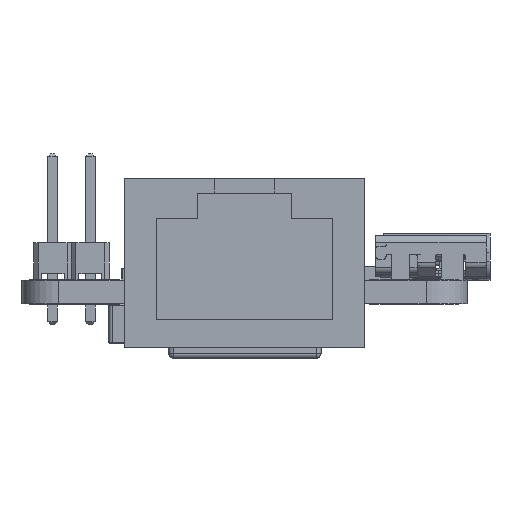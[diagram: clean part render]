
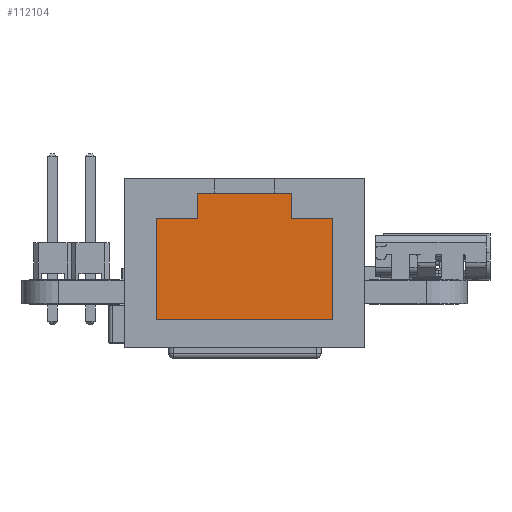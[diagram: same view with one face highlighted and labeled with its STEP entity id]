
A CAD part, left-side view. The second image highlights one B-rep face of the part: STEP entity #112104.
In plain terms, the highlighted planar face has unit normal (-1, 0, 0).
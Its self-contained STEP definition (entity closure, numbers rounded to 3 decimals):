
#28771=DIRECTION('',(0.,1.,0.));
#28772=VECTOR('',#28771,6.3);
#28773=CARTESIAN_POINT('',(1.58,11.88,5.85));
#28774=LINE('',#28773,#28772);
#28783=DIRECTION('',(0.,0.,1.));
#28784=VECTOR('',#28783,1.69);
#28785=CARTESIAN_POINT('',(1.58,11.88,4.16));
#28786=LINE('',#28785,#28784);
#28791=DIRECTION('',(0.,1.,0.));
#28792=VECTOR('',#28791,2.805);
#28793=CARTESIAN_POINT('',(1.58,9.075,4.16));
#28794=LINE('',#28793,#28792);
#28799=DIRECTION('',(0.,0.,1.));
#28800=VECTOR('',#28799,6.83);
#28801=CARTESIAN_POINT('',(1.58,9.075,-2.67));
#28802=LINE('',#28801,#28800);
#28807=DIRECTION('',(0.,-1.,0.));
#28808=VECTOR('',#28807,11.91);
#28809=CARTESIAN_POINT('',(1.58,20.985,-2.67));
#28810=LINE('',#28809,#28808);
#28815=DIRECTION('',(0.,0.,-1.));
#28816=VECTOR('',#28815,6.83);
#28817=CARTESIAN_POINT('',(1.58,20.985,4.16));
#28818=LINE('',#28817,#28816);
#28823=DIRECTION('',(0.,1.,0.));
#28824=VECTOR('',#28823,2.805);
#28825=CARTESIAN_POINT('',(1.58,18.18,4.16));
#28826=LINE('',#28825,#28824);
#28831=DIRECTION('',(0.,0.,-1.));
#28832=VECTOR('',#28831,1.69);
#28833=CARTESIAN_POINT('',(1.58,18.18,5.85));
#28834=LINE('',#28833,#28832);
#62277=CARTESIAN_POINT('',(1.58,11.88,5.85));
#62278=VERTEX_POINT('',#62277);
#62279=CARTESIAN_POINT('',(1.58,18.18,5.85));
#62280=VERTEX_POINT('',#62279);
#62281=CARTESIAN_POINT('',(1.58,11.88,4.16));
#62282=VERTEX_POINT('',#62281);
#62283=CARTESIAN_POINT('',(1.58,9.075,4.16));
#62284=VERTEX_POINT('',#62283);
#62285=CARTESIAN_POINT('',(1.58,9.075,-2.67));
#62286=VERTEX_POINT('',#62285);
#62287=CARTESIAN_POINT('',(1.58,20.985,-2.67));
#62288=VERTEX_POINT('',#62287);
#62289=CARTESIAN_POINT('',(1.58,20.985,4.16));
#62290=VERTEX_POINT('',#62289);
#62291=CARTESIAN_POINT('',(1.58,18.18,4.16));
#62292=VERTEX_POINT('',#62291);
#112089=CARTESIAN_POINT('',(1.58,15.03,1.15));
#112090=DIRECTION('',(-1.,0.,0.));
#112091=DIRECTION('',(0.,-1.,0.));
#112092=AXIS2_PLACEMENT_3D('',#112089,#112090,#112091);
#112093=PLANE('',#112092);
#112094=ORIENTED_EDGE('',*,*,#111927,.F.);
#112095=ORIENTED_EDGE('',*,*,#111951,.F.);
#112096=ORIENTED_EDGE('',*,*,#111972,.F.);
#112097=ORIENTED_EDGE('',*,*,#111993,.F.);
#112098=ORIENTED_EDGE('',*,*,#112014,.F.);
#112099=ORIENTED_EDGE('',*,*,#112035,.F.);
#112100=ORIENTED_EDGE('',*,*,#112056,.F.);
#112101=ORIENTED_EDGE('',*,*,#112076,.F.);
#112102=EDGE_LOOP('',(#112094,#112095,#112096,#112097,#112098,#112099,#112100,
#112101));
#112103=FACE_OUTER_BOUND('',#112102,.F.);
#112104=ADVANCED_FACE('',(#112103),#112093,.T.);
#111927=EDGE_CURVE('',#62278,#62280,#28774,.T.);
#111951=EDGE_CURVE('',#62282,#62278,#28786,.T.);
#111972=EDGE_CURVE('',#62284,#62282,#28794,.T.);
#111993=EDGE_CURVE('',#62286,#62284,#28802,.T.);
#112014=EDGE_CURVE('',#62288,#62286,#28810,.T.);
#112035=EDGE_CURVE('',#62290,#62288,#28818,.T.);
#112056=EDGE_CURVE('',#62292,#62290,#28826,.T.);
#112076=EDGE_CURVE('',#62280,#62292,#28834,.T.);
